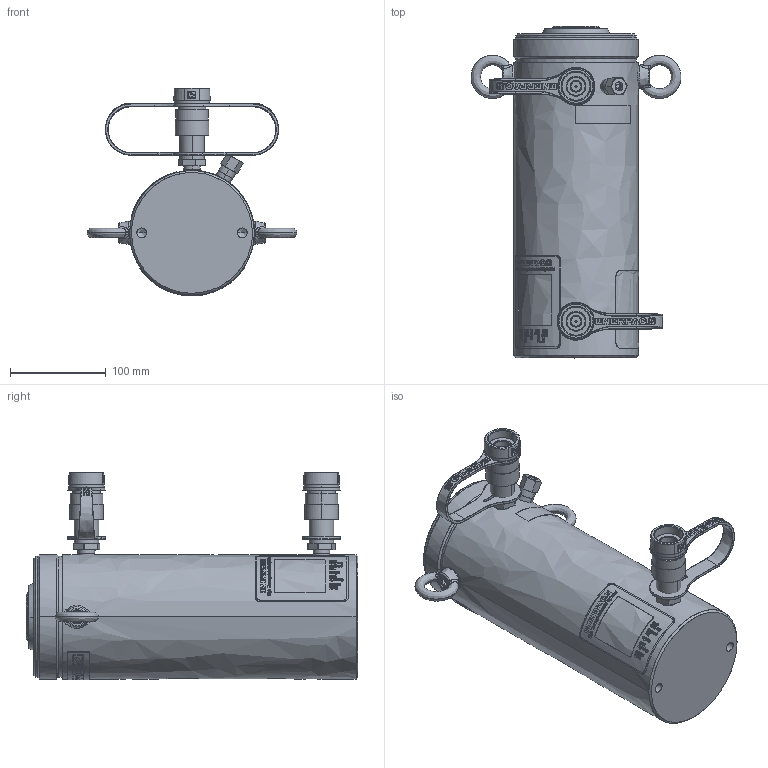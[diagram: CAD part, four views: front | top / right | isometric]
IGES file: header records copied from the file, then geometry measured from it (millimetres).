
Start section:  PTC IGES file: hcr508.igs
Global section: file name: hcr508.igs; native system: Creo Parametric by PTC Inc.; preprocessor: 2015290; author: Akhilesh.Subrahmanya; organization: Unknown; date: 20170629.115449; units: millimetre
Bounding box: 218.91 x 346 x 216.57 mm (x, y, z)
Surface area: 411661.1 mm2 (no closed solid volume)
Topology: 0 solids, 0 shells, 910 faces, 7725 edges, 7714 vertices
Faces by surface type: revolution 545, bspline 351, extrusion 14
